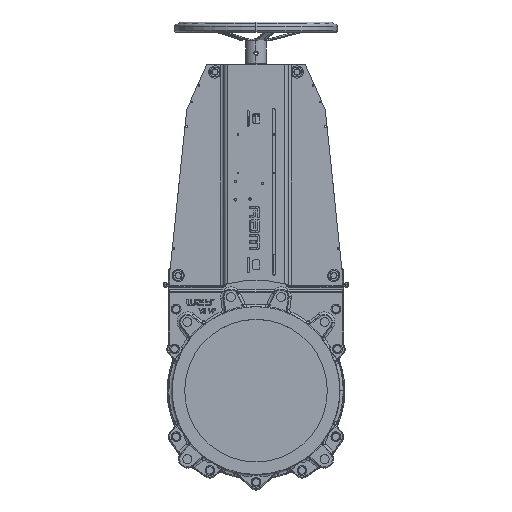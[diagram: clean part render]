
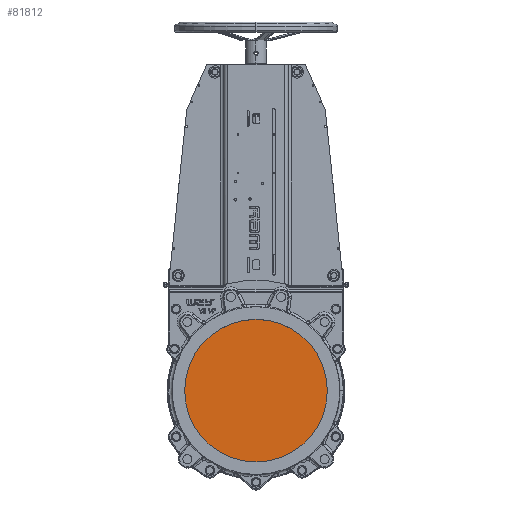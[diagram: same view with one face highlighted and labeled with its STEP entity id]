
A CAD part, top view. The second image highlights one B-rep face of the part: STEP entity #81812.
In plain terms, the highlighted planar face has unit normal (0, 0, 1).
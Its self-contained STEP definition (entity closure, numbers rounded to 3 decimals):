
#1725 = EDGE_CURVE ( 'NONE', #99156, #112704, #29940, .T. ) ;
#8065 = AXIS2_PLACEMENT_3D ( 'NONE', #99942, #48567, #49670 ) ;
#16720 = CARTESIAN_POINT ( 'NONE',  ( 0., 0., -0.25 ) ) ;
#29403 = DIRECTION ( 'NONE',  ( 1., 0., 0. ) ) ;
#29940 = CIRCLE ( 'NONE', #110197, 175. ) ;
#31751 = DIRECTION ( 'NONE',  ( 0., 0., 1. ) ) ;
#36872 = PLANE ( 'NONE',  #8065 ) ;
#48567 = DIRECTION ( 'NONE',  ( 0., 0., 1. ) ) ;
#49670 = DIRECTION ( 'NONE',  ( 1., 0., 0. ) ) ;
#64318 = AXIS2_PLACEMENT_3D ( 'NONE', #16720, #105155, #29403 ) ;
#72486 = EDGE_CURVE ( 'NONE', #112704, #99156, #80132, .T. ) ;
#80132 = CIRCLE ( 'NONE', #64318, 175. ) ;
#81812 = ADVANCED_FACE ( 'NONE', ( #91021 ), #36872, .T. ) ;
#91021 = FACE_OUTER_BOUND ( 'NONE', #134219, .T. ) ;
#99156 = VERTEX_POINT ( 'NONE', #130693 ) ;
#99942 = CARTESIAN_POINT ( 'NONE',  ( 0., 0., -0.25 ) ) ;
#105155 = DIRECTION ( 'NONE',  ( 0., 0., 1. ) ) ;
#107494 = CARTESIAN_POINT ( 'NONE',  ( 0., 0., -0.25 ) ) ;
#110197 = AXIS2_PLACEMENT_3D ( 'NONE', #107494, #31751, #120177 ) ;
#112704 = VERTEX_POINT ( 'NONE', #164079 ) ;
#120177 = DIRECTION ( 'NONE',  ( 1., 0., 0. ) ) ;
#127645 = ORIENTED_EDGE ( 'NONE', *, *, #72486, .T. ) ;
#130693 = CARTESIAN_POINT ( 'NONE',  ( 175., 0., -0.25 ) ) ;
#134219 = EDGE_LOOP ( 'NONE', ( #139823, #127645 ) ) ;
#139823 = ORIENTED_EDGE ( 'NONE', *, *, #1725, .T. ) ;
#164079 = CARTESIAN_POINT ( 'NONE',  ( -175., 0., -0.25 ) ) ;
